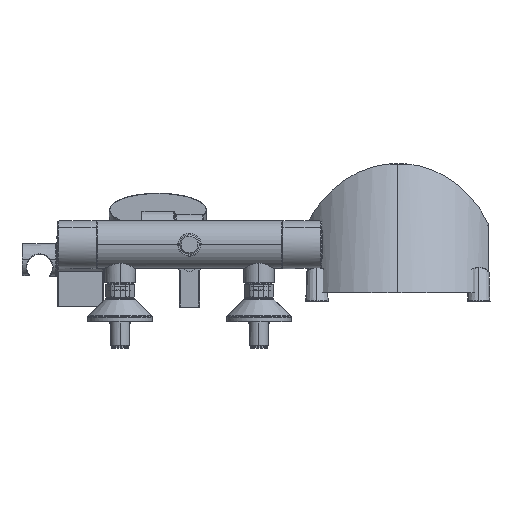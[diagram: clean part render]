
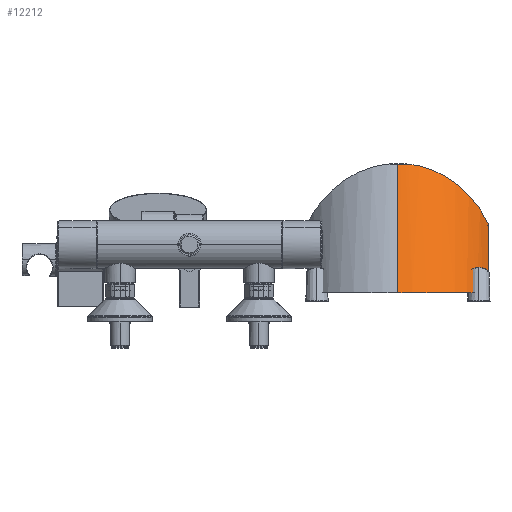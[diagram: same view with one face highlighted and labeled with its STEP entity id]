
A CAD part, front view. The second image highlights one B-rep face of the part: STEP entity #12212.
In plain terms, the highlighted cylindrical face has radius 111.144 mm (diameter 222.289 mm), a partial arc.
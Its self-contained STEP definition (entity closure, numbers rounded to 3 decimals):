
#197 = CARTESIAN_POINT ( 'NONE',  ( 442.325, 220.866, 341.587 ) ) ;
#1334 = EDGE_LOOP ( 'NONE', ( #2364, #21850, #9641, #22346, #4626 ) ) ;
#1381 = CARTESIAN_POINT ( 'NONE',  ( 422.531, 125.838, 267.352 ) ) ;
#1841 = DIRECTION ( 'NONE',  ( 0., 0.559, 0.829 ) ) ;
#2027 = CARTESIAN_POINT ( 'NONE',  ( 393.483, 196.19, 402.196 ) ) ;
#2364 = ORIENTED_EDGE ( 'NONE', *, *, #19202, .F. ) ;
#3013 = DIRECTION ( 'NONE',  ( 0., 0.559, 0.829 ) ) ;
#4008 = CARTESIAN_POINT ( 'NONE',  ( 356.05, 194.362, 406.685 ) ) ;
#4050 = EDGE_CURVE ( 'NONE', #7106, #17937, #25876, .T. ) ;
#4626 = ORIENTED_EDGE ( 'NONE', *, *, #34019, .F. ) ;
#7106 = VERTEX_POINT ( 'NONE', #9900 ) ;
#9641 = ORIENTED_EDGE ( 'NONE', *, *, #33534, .T. ) ;
#9900 = CARTESIAN_POINT ( 'NONE',  ( 442.325, 220.866, 341.587 ) ) ;
#10276 = VECTOR ( 'NONE', #14236, 1000. ) ;
#10485 = VECTOR ( 'NONE', #1841, 1000. ) ;
#11638 =( BOUNDED_CURVE ( )  B_SPLINE_CURVE ( 3, ( #14652, #30533, #1381, #19944 ),
 .UNSPECIFIED., .F., .T. ) 
 B_SPLINE_CURVE_WITH_KNOTS ( ( 4, 4 ),
 ( 3.142, 4.224 ),
 .UNSPECIFIED. ) 
 CURVE ( )  GEOMETRIC_REPRESENTATION_ITEM ( )  RATIONAL_B_SPLINE_CURVE ( ( 1., 0.905, 0.905, 1. ) ) 
 REPRESENTATION_ITEM ( '' )  );
#12212 = ADVANCED_FACE ( 'NONE', ( #34159 ), #13924, .T. ) ;
#12736 = CARTESIAN_POINT ( 'NONE',  ( 344.165, 193.833, 407.041 ) ) ;
#13924 = CYLINDRICAL_SURFACE ( 'NONE', #13978, 111.144 ) ;
#13978 = AXIS2_PLACEMENT_3D ( 'NONE', #16117, #16418, #16443 ) ;
#14236 = DIRECTION ( 'NONE',  ( 0., 0.559, 0.829 ) ) ;
#14652 = CARTESIAN_POINT ( 'NONE',  ( 344.165, 99.639, 267.393 ) ) ;
#14776 = CARTESIAN_POINT ( 'NONE',  ( 442.325, 170.746, 267.28 ) ) ;
#16117 = CARTESIAN_POINT ( 'NONE',  ( 344.165, 185.322, 195.664 ) ) ;
#16418 = DIRECTION ( 'NONE',  ( 0., 0.559, 0.829 ) ) ;
#16438 = AXIS2_PLACEMENT_3D ( 'NONE', #18885, #3013, #21624 ) ;
#16443 = DIRECTION ( 'NONE',  ( 0., -0.829, 0.559 ) ) ;
#17937 = VERTEX_POINT ( 'NONE', #4008 ) ;
#17938 = CARTESIAN_POINT ( 'NONE',  ( 356.05, 194.362, 406.685 ) ) ;
#18619 = CARTESIAN_POINT ( 'NONE',  ( 424.665, 205.769, 378.667 ) ) ;
#18885 = CARTESIAN_POINT ( 'NONE',  ( 344.165, 285.976, 344.89 ) ) ;
#19202 = EDGE_CURVE ( 'NONE', #33540, #26006, #31475, .T. ) ;
#19944 = CARTESIAN_POINT ( 'NONE',  ( 442.325, 170.746, 267.28 ) ) ;
#20427 = CARTESIAN_POINT ( 'NONE',  ( 442.325, 142.102, 224.815 ) ) ;
#21624 = DIRECTION ( 'NONE',  ( 0., -0.829, 0.559 ) ) ;
#21850 = ORIENTED_EDGE ( 'NONE', *, *, #32512, .T. ) ;
#22346 = ORIENTED_EDGE ( 'NONE', *, *, #4050, .T. ) ;
#23173 = CARTESIAN_POINT ( 'NONE',  ( 344.165, 99.639, 267.393 ) ) ;
#24625 = LINE ( 'NONE', #20427, #10485 ) ;
#25876 =( BOUNDED_CURVE ( )  B_SPLINE_CURVE ( 3, ( #197, #18619, #2027, #17938 ),
 .UNSPECIFIED., .F., .T. ) 
 B_SPLINE_CURVE_WITH_KNOTS ( ( 4, 4 ),
 ( 5.201, 6.176 ),
 .UNSPECIFIED. ) 
 CURVE ( )  GEOMETRIC_REPRESENTATION_ITEM ( )  RATIONAL_B_SPLINE_CURVE ( ( 1., 0.922, 0.922, 1. ) ) 
 REPRESENTATION_ITEM ( '' )  );
#26006 = VERTEX_POINT ( 'NONE', #12736 ) ;
#27568 = VERTEX_POINT ( 'NONE', #14776 ) ;
#28414 = CIRCLE ( 'NONE', #16438, 111.144 ) ;
#30533 = CARTESIAN_POINT ( 'NONE',  ( 386.364, 99.639, 267.393 ) ) ;
#31475 = LINE ( 'NONE', #32449, #10276 ) ;
#32449 = CARTESIAN_POINT ( 'NONE',  ( 344.165, 93.179, 257.815 ) ) ;
#32512 = EDGE_CURVE ( 'NONE', #33540, #27568, #11638, .T. ) ;
#33534 = EDGE_CURVE ( 'NONE', #27568, #7106, #24625, .T. ) ;
#33540 = VERTEX_POINT ( 'NONE', #23173 ) ;
#34019 = EDGE_CURVE ( 'NONE', #26006, #17937, #28414, .T. ) ;
#34159 = FACE_OUTER_BOUND ( 'NONE', #1334, .T. ) ;
